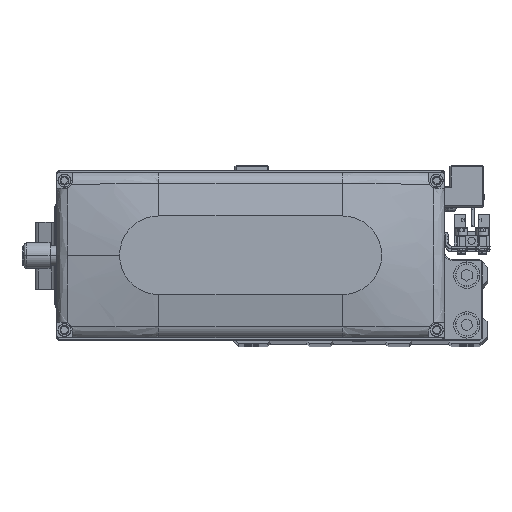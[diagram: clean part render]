
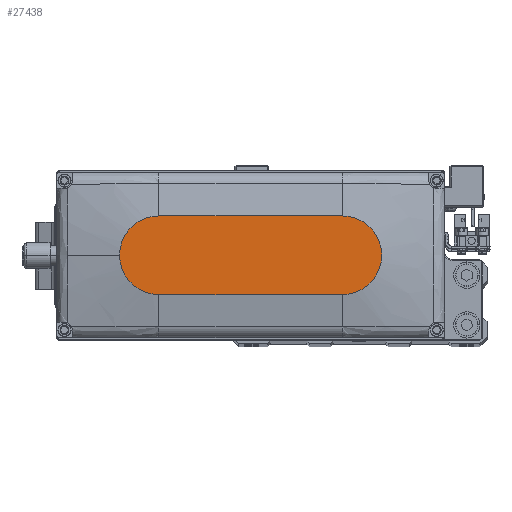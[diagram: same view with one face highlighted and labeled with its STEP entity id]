
A CAD part, top view. The second image highlights one B-rep face of the part: STEP entity #27438.
In plain terms, the highlighted planar face has unit normal (0, 0, 1).
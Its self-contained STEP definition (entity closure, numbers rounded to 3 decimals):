
#558 = EDGE_LOOP ( 'NONE', ( #29649, #25503, #2263, #814, #26346 ) ) ;
#814 = ORIENTED_EDGE ( 'NONE', *, *, #3700, .T. ) ;
#1663 = DIRECTION ( 'NONE',  ( 0., 0., 1. ) ) ;
#2233 = DIRECTION ( 'NONE',  ( 1., 0., 0. ) ) ;
#2263 = ORIENTED_EDGE ( 'NONE', *, *, #38393, .T. ) ;
#2855 = VECTOR ( 'NONE', #32510, 1000. ) ;
#2875 = CARTESIAN_POINT ( 'NONE',  ( -35., 0., 35. ) ) ;
#3700 = EDGE_CURVE ( 'NONE', #11372, #4115, #11636, .T. ) ;
#4115 = VERTEX_POINT ( 'NONE', #15454 ) ;
#4413 = CARTESIAN_POINT ( 'NONE',  ( -35., -15., 35. ) ) ;
#4889 = FACE_OUTER_BOUND ( 'NONE', #558, .T. ) ;
#4908 = AXIS2_PLACEMENT_3D ( 'NONE', #2875, #15919, #28895 ) ;
#6525 = LINE ( 'NONE', #19528, #2855 ) ;
#7721 = CIRCLE ( 'NONE', #31532, 15. ) ;
#9828 = EDGE_CURVE ( 'NONE', #34457, #32627, #23297, .T. ) ;
#9877 = EDGE_CURVE ( 'NONE', #12744, #34457, #6525, .T. ) ;
#11170 = DIRECTION ( 'NONE',  ( 1., 0., 0. ) ) ;
#11372 = VERTEX_POINT ( 'NONE', #11419 ) ;
#11419 = CARTESIAN_POINT ( 'NONE',  ( 35., -15., 35. ) ) ;
#11636 = CIRCLE ( 'NONE', #35413, 15. ) ;
#11658 = DIRECTION ( 'NONE',  ( 1., 0., 0. ) ) ;
#12744 = VERTEX_POINT ( 'NONE', #24458 ) ;
#14735 = DIRECTION ( 'NONE',  ( 1., 0., 0. ) ) ;
#15270 = EDGE_CURVE ( 'NONE', #4115, #12744, #7721, .T. ) ;
#15454 = CARTESIAN_POINT ( 'NONE',  ( 50., 0., 35. ) ) ;
#15919 = DIRECTION ( 'NONE',  ( 0., 0., 1. ) ) ;
#17910 = PLANE ( 'NONE',  #24284 ) ;
#18464 = CARTESIAN_POINT ( 'NONE',  ( 35., 0., 35. ) ) ;
#19528 = CARTESIAN_POINT ( 'NONE',  ( -35., 15., 35. ) ) ;
#23297 = CIRCLE ( 'NONE', #4908, 15. ) ;
#24284 = AXIS2_PLACEMENT_3D ( 'NONE', #30897, #1663, #14735 ) ;
#24458 = CARTESIAN_POINT ( 'NONE',  ( 35., 15., 35. ) ) ;
#25503 = ORIENTED_EDGE ( 'NONE', *, *, #9828, .T. ) ;
#26346 = ORIENTED_EDGE ( 'NONE', *, *, #15270, .T. ) ;
#27357 = LINE ( 'NONE', #40323, #28578 ) ;
#27438 = ADVANCED_FACE ( 'NONE', ( #4889 ), #17910, .T. ) ;
#27471 = CARTESIAN_POINT ( 'NONE',  ( -35., 15., 35. ) ) ;
#27843 = CARTESIAN_POINT ( 'NONE',  ( 35., 0., 35. ) ) ;
#28578 = VECTOR ( 'NONE', #11170, 1000. ) ;
#28895 = DIRECTION ( 'NONE',  ( 1., 0., 0. ) ) ;
#29649 = ORIENTED_EDGE ( 'NONE', *, *, #9877, .T. ) ;
#30897 = CARTESIAN_POINT ( 'NONE',  ( 0., 0., 35. ) ) ;
#31454 = DIRECTION ( 'NONE',  ( 0., 0., 1. ) ) ;
#31532 = AXIS2_PLACEMENT_3D ( 'NONE', #18464, #31454, #2233 ) ;
#32510 = DIRECTION ( 'NONE',  ( -1., 0., 0. ) ) ;
#32627 = VERTEX_POINT ( 'NONE', #4413 ) ;
#34457 = VERTEX_POINT ( 'NONE', #27471 ) ;
#35413 = AXIS2_PLACEMENT_3D ( 'NONE', #27843, #40794, #11658 ) ;
#38393 = EDGE_CURVE ( 'NONE', #32627, #11372, #27357, .T. ) ;
#40323 = CARTESIAN_POINT ( 'NONE',  ( -35., -15., 35. ) ) ;
#40794 = DIRECTION ( 'NONE',  ( 0., 0., 1. ) ) ;
